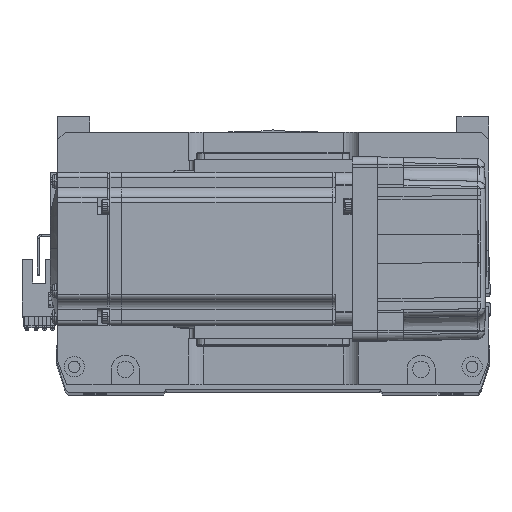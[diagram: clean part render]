
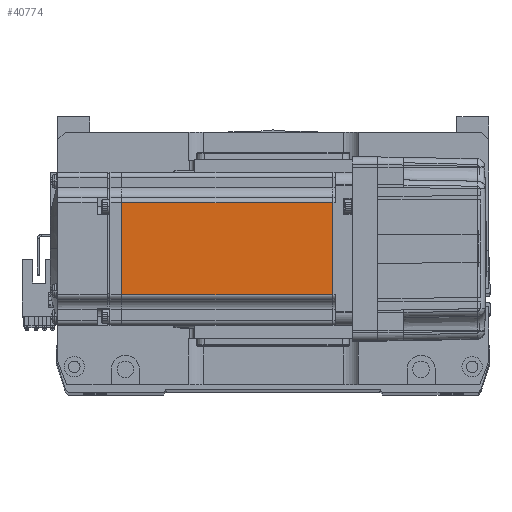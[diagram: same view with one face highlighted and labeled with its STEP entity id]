
A CAD part, top view. The second image highlights one B-rep face of the part: STEP entity #40774.
In plain terms, the highlighted planar face has unit normal (0, 0, 1).
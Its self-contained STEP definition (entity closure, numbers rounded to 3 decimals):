
#1896 = CARTESIAN_POINT ( 'NONE',  ( -90.45, 0., 30. ) ) ;
#4438 = DIRECTION ( 'NONE',  ( 0., 0., 1. ) ) ;
#6309 = VERTEX_POINT ( 'NONE', #40687 ) ;
#6498 = CARTESIAN_POINT ( 'NONE',  ( -6.5, 18., 30. ) ) ;
#12039 = ORIENTED_EDGE ( 'NONE', *, *, #27376, .T. ) ;
#12119 = EDGE_LOOP ( 'NONE', ( #37561, #12039, #33265, #23929 ) ) ;
#12620 = CARTESIAN_POINT ( 'NONE',  ( -6.5, -18., 30. ) ) ;
#13419 = EDGE_CURVE ( 'NONE', #44045, #54850, #30254, .T. ) ;
#14599 = PLANE ( 'NONE',  #19536 ) ;
#19536 = AXIS2_PLACEMENT_3D ( 'NONE', #33416, #4438, #52565 ) ;
#20908 = LINE ( 'NONE', #6498, #29830 ) ;
#21411 = DIRECTION ( 'NONE',  ( 0., -1., 0. ) ) ;
#22082 = VECTOR ( 'NONE', #21411, 1000. ) ;
#23929 = ORIENTED_EDGE ( 'NONE', *, *, #57759, .F. ) ;
#25266 = VECTOR ( 'NONE', #59488, 1000. ) ;
#27376 = EDGE_CURVE ( 'NONE', #6309, #44045, #20908, .T. ) ;
#29830 = VECTOR ( 'NONE', #44334, 1000. ) ;
#30254 = LINE ( 'NONE', #1896, #22082 ) ;
#30451 = LINE ( 'NONE', #45499, #40899 ) ;
#33148 = CARTESIAN_POINT ( 'NONE',  ( -90.45, 18., 30. ) ) ;
#33265 = ORIENTED_EDGE ( 'NONE', *, *, #13419, .T. ) ;
#33416 = CARTESIAN_POINT ( 'NONE',  ( -6.5, -25., 30. ) ) ;
#35447 = DIRECTION ( 'NONE',  ( 0., -1., 0. ) ) ;
#37561 = ORIENTED_EDGE ( 'NONE', *, *, #47368, .F. ) ;
#38965 = CARTESIAN_POINT ( 'NONE',  ( -7.75, -18., 30. ) ) ;
#40687 = CARTESIAN_POINT ( 'NONE',  ( -7.75, 18., 30. ) ) ;
#40774 = ADVANCED_FACE ( 'NONE', ( #53711 ), #14599, .T. ) ;
#40899 = VECTOR ( 'NONE', #35447, 1000. ) ;
#43138 = LINE ( 'NONE', #12620, #25266 ) ;
#44045 = VERTEX_POINT ( 'NONE', #33148 ) ;
#44334 = DIRECTION ( 'NONE',  ( -1., 0., 0. ) ) ;
#45228 = CARTESIAN_POINT ( 'NONE',  ( -90.45, -18., 30. ) ) ;
#45499 = CARTESIAN_POINT ( 'NONE',  ( -7.75, 0., 30. ) ) ;
#47368 = EDGE_CURVE ( 'NONE', #6309, #48684, #30451, .T. ) ;
#48684 = VERTEX_POINT ( 'NONE', #38965 ) ;
#52565 = DIRECTION ( 'NONE',  ( 1., 0., 0. ) ) ;
#53711 = FACE_OUTER_BOUND ( 'NONE', #12119, .T. ) ;
#54850 = VERTEX_POINT ( 'NONE', #45228 ) ;
#57759 = EDGE_CURVE ( 'NONE', #48684, #54850, #43138, .T. ) ;
#59488 = DIRECTION ( 'NONE',  ( -1., 0., 0. ) ) ;
